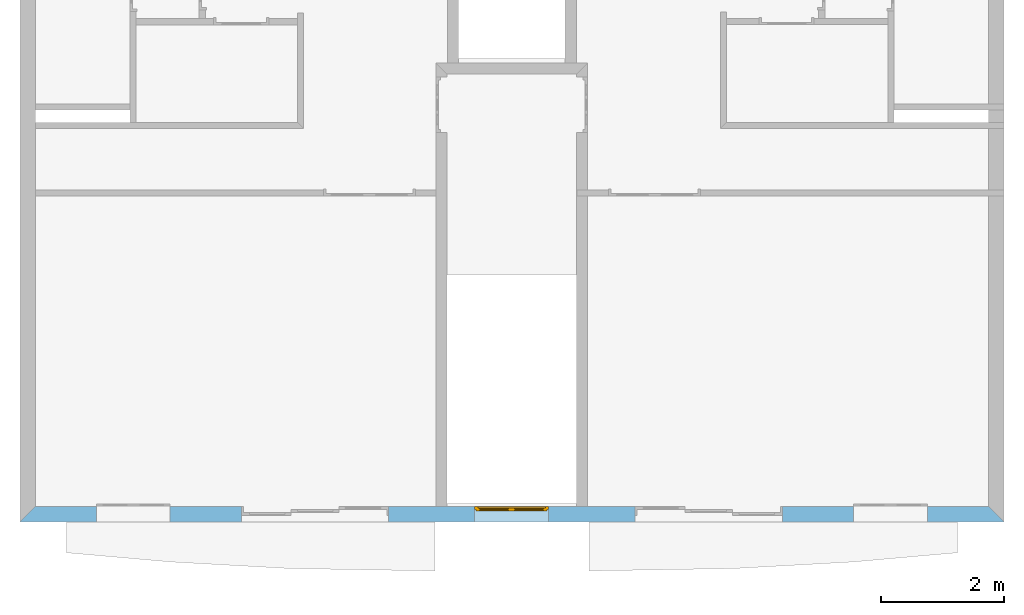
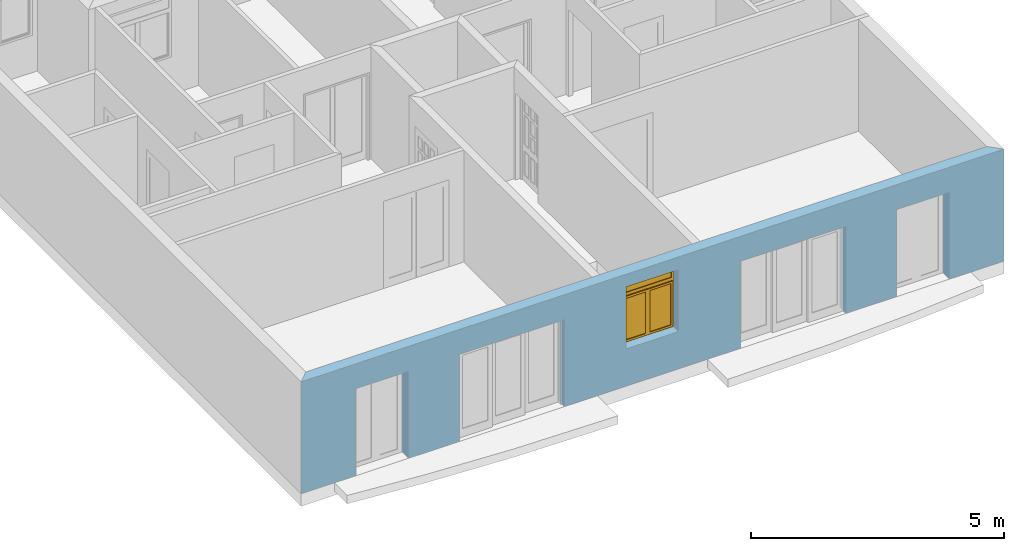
# One storey, part 3 of 11: 1 window, 5 openings, plus 1 element that does not belong to this part.
"""IFC2X3 building model written with IfcOpenShell, lengths in metres."""

from ifc_helpers import new_model, entity, si_unit, converted_unit, direction, frame, frame_2d, origin_with_axes, place, context, project, spatial, polyline, rectangle, outline, extrude, faceted_brep, source, transform, mapped, material, layer, layer_set, layer_usage, type_object, element, fill, save


model = new_model("IFC2X3")

# Units and contexts
context_of_model = context(None, 3, precision=1e-05, world=origin_with_axes(), true_north=direction((6.123234e-17, 1.0)))
plan_context = context("Plan", 3, precision=1e-05, world=origin_with_axes(), true_north=direction((6.123234e-17, 1.0)))
model_context = context("Model", 3, precision=1e-05, world=origin_with_axes(), true_north=direction((6.123234e-17, 1.0)))
ifc_project = project(units=[si_unit("LENGTHUNIT", "METRE"), si_unit("AREAUNIT", "SQUARE_METRE"), si_unit("VOLUMEUNIT", "CUBIC_METRE"), converted_unit("PLANEANGLEUNIT", "DEGREE", entity("IfcPlaneAngleMeasure", 0.017453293), si_unit("PLANEANGLEUNIT", "RADIAN"), dimensions=[0, 0, 0, 0, 0, 0, 0]), si_unit("SOLIDANGLEUNIT", "STERADIAN"), si_unit("MASSUNIT", "GRAM"), si_unit("TIMEUNIT", "SECOND"), si_unit("THERMODYNAMICTEMPERATUREUNIT", "DEGREE_CELSIUS"), si_unit("LUMINOUSINTENSITYUNIT", "LUMEN")], contexts=[context_of_model, plan_context, model_context])

# Site, building, storey
site_placement = place(None, origin_with_axes())
site = spatial("IfcSite", under=ifc_project, at=site_placement, Name="Por defecto Sitio", CompositionType="ELEMENT")
building_placement = place(site_placement, origin_with_axes())
building = spatial("IfcBuilding", under=site, at=building_placement, Name="Por defecto Edificio", CompositionType="ELEMENT")
storey_placement = place(building_placement, frame((0.0, 0.0, 13.2), z_axis=(0.0, 0.0, 1.0), x_axis=(1.0, 0.0, 0.0)))
storey = spatial("IfcBuildingStorey", under=building, at=storey_placement, Name="Cuarta", CompositionType="ELEMENT", Elevation=13.2)

# Wall, openings, window
ifc_material = material(Name="Ladrillo común")
ifc_layer = layer(ifc_material, 0.25, ventilated="UNKNOWN")
ifc_layer_set = layer_set([ifc_layer], Name="Ladrillo común")
ifc_layer_usage = layer_usage(ifc_layer_set, "AXIS2", "NEGATIVE", 0.0)
wall_type = type_object("IfcWallType", Name="Ladrillo común", PredefinedType="NOTDEFINED")
wall_placement = place(storey_placement, frame((16.03417, -1.1368684e-13, 0.0), z_axis=(0.0, 0.0, 1.0), x_axis=(-1.0, 7.0902852e-15, 0.0)))
wall = element("IfcWallStandardCase", 1, at=wall_placement, inside=storey, type_object=wall_type, material=ifc_layer_usage, Name="Muro-011", context=context_of_model, shape_type="SweptSolid", body=[
    extrude(outline(polyline([(0.25, -0.25), (15.784178, -0.25), (16.03417, 0.0), (0.0, 0.0), (0.25, -0.25)])), origin_with_axes(), (0.0, 0.0, 1.0), 2.7),
])
opening_1_placement = place(wall_placement, frame((11.225136, -0.25, 0.0), z_axis=(0.0, 0.0, 1.0), x_axis=(1.0, 0.0, 0.0)))
element("IfcOpeningElement", 2, at=opening_1_placement, cuts=wall, ObjectType="Opening", context=model_context, shape_type="SweptSolid", body=[
    extrude(rectangle(XDim=2.4, YDim=2.1, at=frame_2d((-1.7763568e-15, 1.05), x_axis=(-1.0, 0.0))), frame((0.0, 0.0, 0.0), z_axis=(0.0, 1.0, 0.0), x_axis=(-1.0, 0.0, 0.0)), (0.0, 0.0, 1.0), 0.25),
])
opening_2_placement = place(wall_placement, frame((4.8090341, -0.25, 0.0), z_axis=(0.0, 0.0, 1.0), x_axis=(1.0, 0.0, 0.0)))
element("IfcOpeningElement", 3, at=opening_2_placement, cuts=wall, ObjectType="Opening", context=model_context, shape_type="SweptSolid", body=[
    extrude(rectangle(XDim=2.4, YDim=2.1, at=frame_2d((-1.7763568e-15, 1.05), x_axis=(-1.0, 0.0))), frame((0.0, 0.0, 0.0), z_axis=(0.0, 1.0, 0.0), x_axis=(-1.0, 0.0, 0.0)), (0.0, 0.0, 1.0), 0.25),
])
opening_3_placement = place(wall_placement, frame((1.8475705, -0.25, 0.0), z_axis=(0.0, 0.0, 1.0), x_axis=(1.0, 0.0, 0.0)))
element("IfcOpeningElement", 4, at=opening_3_placement, cuts=wall, ObjectType="Opening", context=model_context, shape_type="SweptSolid", body=[
    extrude(rectangle(XDim=1.2, YDim=2.1, at=frame_2d((-1.7763568e-15, 1.05), x_axis=(-1.0, 0.0))), frame((0.0, 0.0, 0.0), z_axis=(0.0, 1.0, 0.0), x_axis=(-1.0, 0.0, 0.0)), (0.0, 0.0, 1.0), 0.25),
])
opening_4_placement = place(wall_placement, frame((14.186599, -0.25, 0.0), z_axis=(0.0, 0.0, 1.0), x_axis=(1.0, 0.0, 0.0)))
element("IfcOpeningElement", 5, at=opening_4_placement, cuts=wall, ObjectType="Opening", context=model_context, shape_type="SweptSolid", body=[
    extrude(rectangle(XDim=1.2, YDim=2.1, at=frame_2d((-1.7763568e-15, 1.05), x_axis=(-1.0, 0.0))), frame((0.0, 0.0, 0.0), z_axis=(0.0, 1.0, 0.0), x_axis=(-1.0, 0.0, 0.0)), (0.0, 0.0, 1.0), 0.25),
])
opening_5_placement = place(wall_placement, frame((8.0241698, -0.25, 0.9), z_axis=(0.0, 0.0, 1.0), x_axis=(1.0, 0.0, 0.0)))
opening_5 = element("IfcOpeningElement", 6, at=opening_5_placement, cuts=wall, ObjectType="Opening", context=model_context, shape_type="SweptSolid", body=[
    extrude(rectangle(XDim=1.2, YDim=1.5, at=frame_2d((-1.7763568e-15, 0.75), x_axis=(-1.0, 0.0))), frame((0.0, 0.0, 0.0), z_axis=(0.0, 1.0, 0.0), x_axis=(-1.0, 0.0, 0.0)), (0.0, 0.0, 1.0), 0.25),
])
window_style = type_object("IfcWindowStyle", Name="V M Doble 12", ConstructionType="NOTDEFINED", OperationType="DOUBLE_PANEL_HORIZONTAL", ParameterTakesPrecedence=False, Sizeable=False)
shared_shape = source(origin_with_axes(), model_context, "Body", "Brep", [
    faceted_brep([(1.175, 0.05, 0.05), (1.175, 0.05, 1.125), (1.15, 0.05, 1.125), (1.15, 0.05, 1.2), (1.15, 0.05, 1.45), (1.2, 0.05, 1.45), (1.2, 0.05, 0.05), (1.175, 0.025, 0.05), (1.175, 0.025, 1.125), (1.15, 0.025, 1.125), (1.15, 0.025, 1.1), (1.15, 5.978551e-14, 1.1), (1.15, 5.978551e-14, 1.2), (1.15, 5.978551e-14, 1.45), (1.2, 6.0146332e-14, 1.45), (1.2, 6.0063066e-14, 0.05), (1.15, 5.9702243e-14, 0.05), (1.15, 0.025, 0.05)], [[[0, 1, 2, 3, 4, 5, 6]], [[1, 0, 7, 8]], [[9, 2, 1, 8]], [[9, 10, 11, 12, 3, 2]], [[3, 12, 13, 4]], [[4, 13, 14, 5]], [[5, 14, 15, 6]], [[7, 0, 6, 15, 16, 17]], [[10, 9, 8, 7, 17]], [[10, 17, 16, 11]], [[12, 11, 16, 15, 14, 13]]]),
    faceted_brep([(0.025, 0.05, 1.125), (0.025, 0.05, 0.05), (1.7763568e-15, 0.05, 0.05), (1.7763568e-15, 0.05, 1.45), (0.05, 0.05, 1.45), (0.05, 0.05, 1.2), (0.05, 0.05, 1.125), (0.025, 0.025, 1.125), (0.025, 0.025, 0.05), (0.05, 0.025, 0.05), (0.05, 5.2180482e-14, 0.05), (1.7763568e-15, 5.1847415e-14, 0.05), (1.7763568e-15, 5.1930682e-14, 1.45), (0.05, 5.2263749e-14, 1.45), (0.05, 5.2263749e-14, 1.2), (0.05, 0.025, 1.125), (0.05, 5.2235993e-14, 1.1), (0.05, 0.025, 1.1)], [[[0, 1, 2, 3, 4, 5, 6]], [[1, 0, 7, 8]], [[8, 9, 10, 11, 2, 1]], [[2, 11, 12, 3]], [[3, 12, 13, 4]], [[4, 13, 14, 5]], [[15, 6, 5, 14, 16, 17]], [[0, 6, 15, 7]], [[9, 8, 7, 15, 17]], [[9, 17, 16, 10]], [[11, 10, 16, 14, 13, 12]]]),
    faceted_brep([(1.15, 0.05, 1.125), (0.6, 0.05, 1.125), (0.05, 0.05, 1.125), (0.05, 0.05, 1.2), (1.15, 0.05, 1.2), (1.15, 0.025, 1.125), (0.6, 0.025, 1.125), (0.05, 0.025, 1.125), (0.05, 0.025, 1.1), (0.05, 5.2235993e-14, 1.1), (0.05, 5.2263749e-14, 1.2), (1.15, 5.978551e-14, 1.2), (1.15, 5.978551e-14, 1.1), (1.15, 0.025, 1.1)], [[[0, 1, 2, 3, 4]], [[1, 0, 5, 6]], [[7, 2, 1, 6]], [[7, 8, 9, 10, 3, 2]], [[3, 10, 11, 4]], [[5, 0, 4, 11, 12, 13]], [[8, 7, 6, 5, 13]], [[8, 13, 12, 9]], [[10, 9, 12, 11]]]),
    faceted_brep([(0.05, 0.025, 0.05), (0.025, 0.025, 0.05), (0.025, 0.05, 0.05), (1.7763568e-15, 0.05, 0.05), (1.7763568e-15, 5.1847415e-14, 0.05), (0.05, 5.2180482e-14, 0.05), (1.15, 0.025, 0.05), (1.175, 0.025, 0.05), (1.175, 0.025, 0.025), (0.6, 0.025, 0.025), (0.025, 0.025, 0.025), (0.025, 0.05, 0.025), (1.175, 0.05, 0.025), (1.175, 0.05, 0.05), (1.2, 0.05, 0.05), (1.2, 0.05, 0.0), (1.7763568e-15, 0.05, 0.0), (0.6, 0.05, 0.025), (0.0, 0.0, 0.0), (1.2, 6.0063066e-14, 0.05), (1.15, 5.9702243e-14, 0.05), (1.2, 6.0063066e-14, 0.0)], [[[0, 1, 2, 3, 4, 5]], [[1, 0, 6, 7, 8, 9, 10]], [[11, 2, 1, 10]], [[12, 13, 14, 15, 16, 3, 2, 11, 17]], [[16, 18, 4, 3]], [[19, 20, 5, 4, 18, 21]], [[6, 0, 5, 20]], [[7, 6, 20, 19, 14, 13]], [[7, 13, 12, 8]], [[12, 17, 9, 8]], [[17, 11, 10, 9]], [[14, 19, 21, 15]], [[15, 21, 18, 16]]]),
    faceted_brep([(0.05, 5.2263749e-14, 1.45), (1.7763568e-15, 5.1930682e-14, 1.45), (1.7763568e-15, 0.05, 1.45), (0.05, 0.05, 1.45), (1.15, 5.978551e-14, 1.45), (1.2, 6.0146332e-14, 1.45), (1.2, 6.0146332e-14, 1.5), (1.7763568e-15, 5.1958438e-14, 1.5), (1.7763568e-15, 0.05, 1.5), (1.2, 0.05, 1.5), (1.2, 0.05, 1.45), (1.15, 0.05, 1.45)], [[[0, 1, 2, 3]], [[0, 4, 5, 6, 7, 1]], [[1, 7, 8, 2]], [[3, 2, 8, 9, 10, 11]], [[4, 0, 3, 11]], [[5, 4, 11, 10]], [[6, 5, 10, 9]], [[7, 6, 9, 8]]]),
    faceted_brep([(0.075, 0.025, 0.075), (0.075, 0.075, 0.075), (0.075, 0.075, 1.075), (0.075, 0.025, 1.075), (0.025, 0.025, 0.075), (0.025, 0.075, 0.075), (0.025, 0.075, 1.075), (0.025, 0.025, 1.075)], [[[0, 1, 2, 3]], [[4, 5, 1, 0]], [[1, 5, 6, 2]], [[3, 2, 6, 7]], [[0, 3, 7, 4]], [[7, 6, 5, 4]]]),
    faceted_brep([(0.6, 0.025, 0.075), (0.6, 0.075, 0.075), (0.6, 0.075, 1.075), (0.6, 0.025, 1.075), (0.55, 0.025, 0.075), (0.55, 0.075, 0.075), (0.55, 0.075, 1.075), (0.55, 0.025, 1.075)], [[[0, 1, 2, 3]], [[4, 5, 1, 0]], [[1, 5, 6, 2]], [[3, 2, 6, 7]], [[0, 3, 7, 4]], [[7, 6, 5, 4]]]),
    faceted_brep([(0.6, 0.025, 0.025), (0.6, 0.075, 0.025), (0.6, 0.075, 0.075), (0.6, 0.025, 0.075), (0.025, 0.025, 0.025), (0.025, 0.075, 0.025), (0.025, 0.075, 0.075), (0.075, 0.075, 0.075), (0.55, 0.075, 0.075), (0.55, 0.025, 0.075), (0.075, 0.025, 0.075), (0.025, 0.025, 0.075)], [[[0, 1, 2, 3]], [[4, 5, 1, 0]], [[1, 5, 6, 7, 8, 2]], [[3, 2, 8, 9]], [[0, 3, 9, 10, 11, 4]], [[11, 6, 5, 4]], [[10, 7, 6, 11]], [[9, 8, 7, 10]]]),
    faceted_brep([(0.025, 0.025, 1.125), (0.025, 0.075, 1.125), (0.025, 0.075, 1.075), (0.025, 0.025, 1.075), (0.6, 0.025, 1.125), (0.6, 0.075, 1.125), (0.6, 0.075, 1.075), (0.55, 0.075, 1.075), (0.075, 0.075, 1.075), (0.075, 0.025, 1.075), (0.55, 0.025, 1.075), (0.6, 0.025, 1.075)], [[[0, 1, 2, 3]], [[4, 5, 1, 0]], [[1, 5, 6, 7, 8, 2]], [[3, 2, 8, 9]], [[0, 3, 9, 10, 11, 4]], [[11, 6, 5, 4]], [[10, 7, 6, 11]], [[9, 8, 7, 10]]]),
    faceted_brep([(0.075, 0.04, 0.075), (0.075, 0.06, 0.075), (0.55, 0.06, 0.075), (0.55, 0.04, 0.075), (0.075, 0.04, 1.075), (0.075, 0.06, 1.075), (0.55, 0.06, 1.075), (0.55, 0.04, 1.075)], [[[0, 1, 2, 3]], [[4, 5, 1, 0]], [[1, 5, 6, 2]], [[3, 2, 6, 7]], [[0, 3, 7, 4]], [[7, 6, 5, 4]]]),
    faceted_brep([(0.65, 0.025, 0.075), (0.65, 0.075, 0.075), (0.65, 0.075, 1.075), (0.65, 0.025, 1.075), (0.6, 0.025, 0.075), (0.6, 0.075, 0.075), (0.6, 0.075, 1.075), (0.6, 0.025, 1.075)], [[[0, 1, 2, 3]], [[4, 5, 1, 0]], [[1, 5, 6, 2]], [[3, 2, 6, 7]], [[0, 3, 7, 4]], [[7, 6, 5, 4]]]),
    faceted_brep([(1.175, 0.025, 0.075), (1.175, 0.075, 0.075), (1.175, 0.075, 1.075), (1.175, 0.025, 1.075), (1.125, 0.025, 0.075), (1.125, 0.075, 0.075), (1.125, 0.075, 1.075), (1.125, 0.025, 1.075)], [[[0, 1, 2, 3]], [[4, 5, 1, 0]], [[1, 5, 6, 2]], [[3, 2, 6, 7]], [[0, 3, 7, 4]], [[7, 6, 5, 4]]]),
    faceted_brep([(1.175, 0.025, 0.025), (1.175, 0.075, 0.025), (1.175, 0.075, 0.075), (1.175, 0.025, 0.075), (0.6, 0.025, 0.025), (0.6, 0.075, 0.025), (0.6, 0.075, 0.075), (0.65, 0.075, 0.075), (1.125, 0.075, 0.075), (1.125, 0.025, 0.075), (0.65, 0.025, 0.075), (0.6, 0.025, 0.075)], [[[0, 1, 2, 3]], [[4, 5, 1, 0]], [[1, 5, 6, 7, 8, 2]], [[3, 2, 8, 9]], [[0, 3, 9, 10, 11, 4]], [[11, 6, 5, 4]], [[10, 7, 6, 11]], [[9, 8, 7, 10]]]),
    faceted_brep([(0.6, 0.025, 1.125), (0.6, 0.075, 1.125), (0.6, 0.075, 1.075), (0.6, 0.025, 1.075), (1.175, 0.025, 1.125), (1.175, 0.075, 1.125), (1.175, 0.075, 1.075), (1.125, 0.075, 1.075), (0.65, 0.075, 1.075), (0.65, 0.025, 1.075), (1.125, 0.025, 1.075), (1.175, 0.025, 1.075)], [[[0, 1, 2, 3]], [[4, 5, 1, 0]], [[1, 5, 6, 7, 8, 2]], [[3, 2, 8, 9]], [[0, 3, 9, 10, 11, 4]], [[11, 6, 5, 4]], [[10, 7, 6, 11]], [[9, 8, 7, 10]]]),
    faceted_brep([(0.65, 0.04, 0.075), (0.65, 0.06, 0.075), (1.125, 0.06, 0.075), (1.125, 0.04, 0.075), (0.65, 0.04, 1.075), (0.65, 0.06, 1.075), (1.125, 0.06, 1.075), (1.125, 0.04, 1.075)], [[[0, 1, 2, 3]], [[4, 5, 1, 0]], [[1, 5, 6, 2]], [[3, 2, 6, 7]], [[0, 3, 7, 4]], [[7, 6, 5, 4]]]),
    faceted_brep([(0.05, 0.015, 1.2), (0.05, 0.035, 1.2), (1.15, 0.035, 1.2), (1.15, 0.015, 1.2), (0.05, 0.015, 1.45), (0.05, 0.035, 1.45), (1.15, 0.035, 1.45), (1.15, 0.015, 1.45)], [[[0, 1, 2, 3]], [[4, 5, 1, 0]], [[1, 5, 6, 2]], [[3, 2, 6, 7]], [[0, 3, 7, 4]], [[7, 6, 5, 4]]]),
])
window_placement = place(opening_5_placement, frame((-0.6, 0.0, 0.0), z_axis=(0.0, 0.0, 1.0), x_axis=(1.0, 0.0, 0.0)))
window = element("IfcWindow", 7, at=window_placement, inside=storey, type_object=window_style, Name="V07", OverallHeight=1.5, OverallWidth=1.2, context=model_context, shape_type="MappedRepresentation", body=[
    mapped(shared_shape, transform((0.0, 0.0, 0.0), scale=1.0)),
])
fill(opening_5, window)

save(model, "model.ifc")
